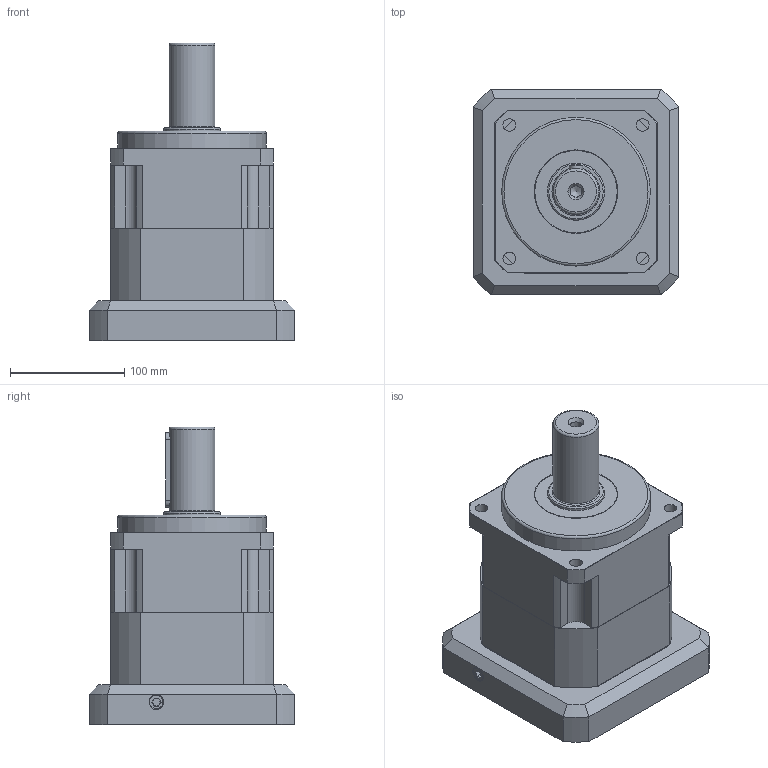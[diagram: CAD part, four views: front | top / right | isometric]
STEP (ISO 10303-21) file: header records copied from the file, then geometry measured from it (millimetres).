
FILE_DESCRIPTION((''),'2;1');
FILE_NAME('C:\Work\감속기 카다로그 도면\Li-Ming (11-08-22) 2D-3D\STEP\홈피\KSB\KSB-142-1.stp','2012-02-14T15:59:24',('young'),(''),'Autodesk Inventor 2012','Autodesk Inventor 2012','');
FILE_SCHEMA(('AUTOMOTIVE_DESIGN { 1 0 10303 214 1 1 1 1 }'));
Length unit declared in the file: millimetre
Products named in the file (1): KSB-142-1
Bounding box: 180 x 180 x 260.5 mm (x, y, z)
Volume: 2821589.6 mm3; surface area: 395034.7 mm2
Topology: 16 solids, 16 shells, 770 faces, 1988 edges, 1306 vertices
Faces by surface type: plane 411, cylinder 213, bspline 69, cone 67, torus 10
Full cylindrical faces by diameter (mm): 6.8 x4, 8.5 x8, 8.6 x1, 9.076 x1, 10 x5, 10.2 x5, 10.5 x4, 11 x5, 11.125 x2, 14 x4, 16 x5, 35.2 x1, 40 x1, 44.9 x1, 48.2 x1, 48.8 x1, 49.8 x1, 50 x2, 62 x1, 72 x4, 108 x1, 114.3 x1, 120 x2, 130 x1
Entity records: 27044 total; most frequent: CARTESIAN_POINT 8965, ORIENTED_EDGE 3708, DIRECTION 3537, EDGE_CURVE 1854, VERTEX_POINT 1281, AXIS2_PLACEMENT_3D 1238, VECTOR 1061, LINE 1061
